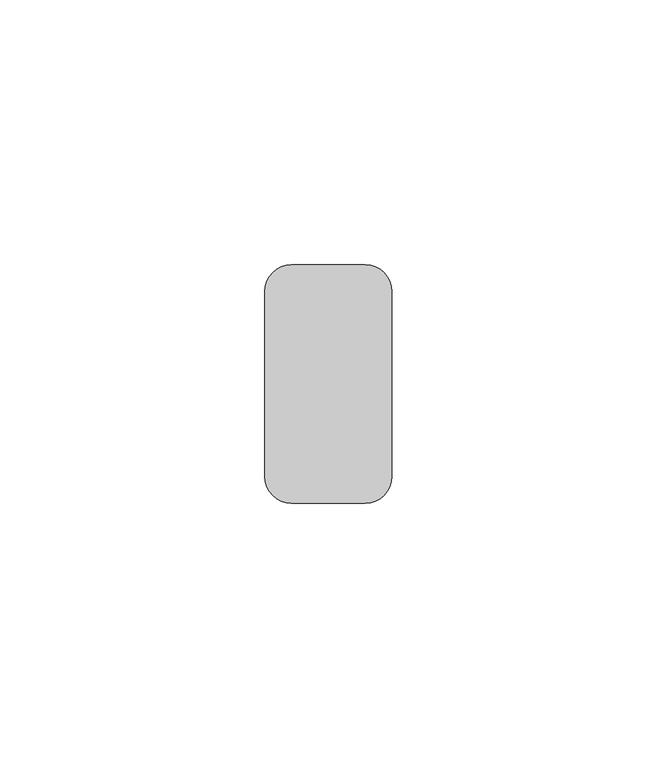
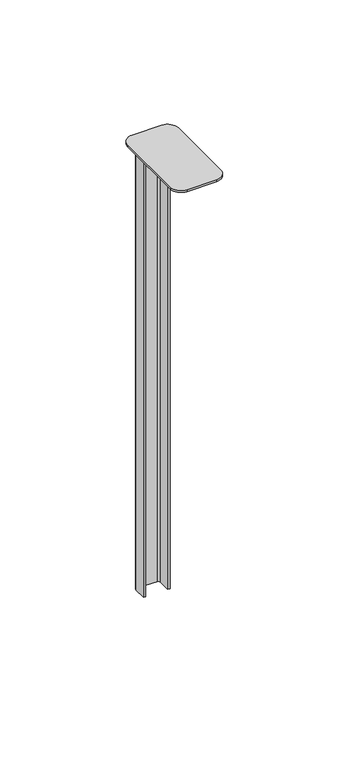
"""IFC4 building model written with IfcOpenShell, lengths in millimetres: proxy geometry, durlum_U1300 : durlum_U1300."""

from ifc_helpers import new_model, si_unit, point, frame, frame_2d, origin, place, context, project, spatial, polyline, circle_curve, trimmed, segment, composite_curve, outline, extrude, source, transform, mapped, element, save


def generic_models_d8e51ee8(model_context):
    return source(origin(), model_context, "Body", "SweptSolid", [
        extrude(outline(composite_curve([segment(trimmed(circle_curve(frame_2d((7.0, -5.0)), 5.0), [point((7.0, 0.0))], [point((12.0, -5.0))], False, "CARTESIAN"), True, "CONTINUOUS"), segment(polyline([(12.0, -5.0), (12.0, -40.0)]), True, "CONTINUOUS"), segment(trimmed(circle_curve(frame_2d((7.0, -40.0)), 5.0), [point((12.0, -40.0))], [point((7.0, -45.0))], False, "CARTESIAN"), True, "CONTINUOUS"), segment(polyline([(7.0, -45.0), (-7.0, -45.0)]), True, "CONTINUOUS"), segment(trimmed(circle_curve(frame_2d((-7.0, -40.0)), 5.0), [point((-7.0, -45.0))], [point((-12.0, -40.0))], False, "CARTESIAN"), True, "CONTINUOUS"), segment(polyline([(-12.0, -40.0), (-12.0, -5.0)]), True, "CONTINUOUS"), segment(trimmed(circle_curve(frame_2d((-7.0, -5.0)), 5.0), [point((-12.0, -5.0))], [point((-7.0, 0.0))], False, "CARTESIAN"), True, "CONTINUOUS"), segment(polyline([(-7.0, 0.0), (7.0, 0.0)]), True, "CONTINUOUS")], self_intersect=False)), frame((0.0, 0.0, 942.5875318), z_axis=(0.0, 0.0, 1.0), x_axis=(1.0, 0.0, 0.0)), (0.0, 0.0, 1.0), 1.0),
        extrude(outline(composite_curve([segment(trimmed(circle_curve(frame_2d((-4.25, -2.0)), 2.0), [point((-6.25, -2.0))], [point((-4.25, 0.0))], False, "CARTESIAN"), True, "CONTINUOUS"), segment(polyline([(-4.25, 0.0), (4.25, 0.0)]), True, "CONTINUOUS"), segment(trimmed(circle_curve(frame_2d((4.25, -2.0)), 2.0), [point((4.25, 0.0))], [point((6.25, -2.0))], False, "CARTESIAN"), True, "CONTINUOUS"), segment(polyline([(6.25, -2.0), (6.25, -8.0), (5.25, -8.0), (5.25, -2.0)]), True, "CONTINUOUS"), segment(trimmed(circle_curve(frame_2d((4.25, -2.0)), 1.0), [point((5.25, -2.0))], [point((4.25, -1.0))], True, "CARTESIAN"), True, "CONTINUOUS"), segment(polyline([(4.25, -1.0), (-4.25, -1.0)]), True, "CONTINUOUS"), segment(trimmed(circle_curve(frame_2d((-4.25, -2.0)), 1.0), [point((-4.25, -1.0))], [point((-5.25, -2.0))], True, "CARTESIAN"), True, "CONTINUOUS"), segment(polyline([(-5.25, -2.0), (-5.25, -8.0), (-6.25, -8.0), (-6.25, -2.0)]), True, "CONTINUOUS")], self_intersect=False)), frame((0.0, 0.0, 716.5875318), z_axis=(0.0, 0.0, 1.0), x_axis=(1.0, 0.0, 0.0)), (0.0, 0.0, 1.0), 226.0),
    ])


if __name__ == "__main__":
    model = new_model("IFC4")
    model_context = context("Model", 3, world=origin())
    ifc_project = project(units=[si_unit("LENGTHUNIT", "METRE", prefix="MILLI")], contexts=[model_context])
    site = spatial("IfcSite", under=ifc_project)
    building = spatial("IfcBuilding", under=site)
    placement = place(None, origin())
    generic_models_shape = generic_models_d8e51ee8(model_context)
    element("IfcBuildingElementProxy", 1, Name="durlum_U1300 : durlum_U1300", ObjectType="durlum_U1300 : durlum_U1300", at=placement, inside=building, context=model_context, shape_type="MappedRepresentation", body=[
        mapped(generic_models_shape, transform((0.0, 0.0, 0.0), x_axis=(1.0, 0.0, 0.0), y_axis=(0.0, 1.0, 0.0), z_axis=(0.0, 0.0, 1.0))),
    ])
    save(model, "model.ifc")
